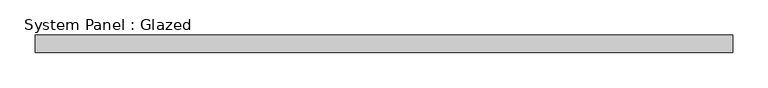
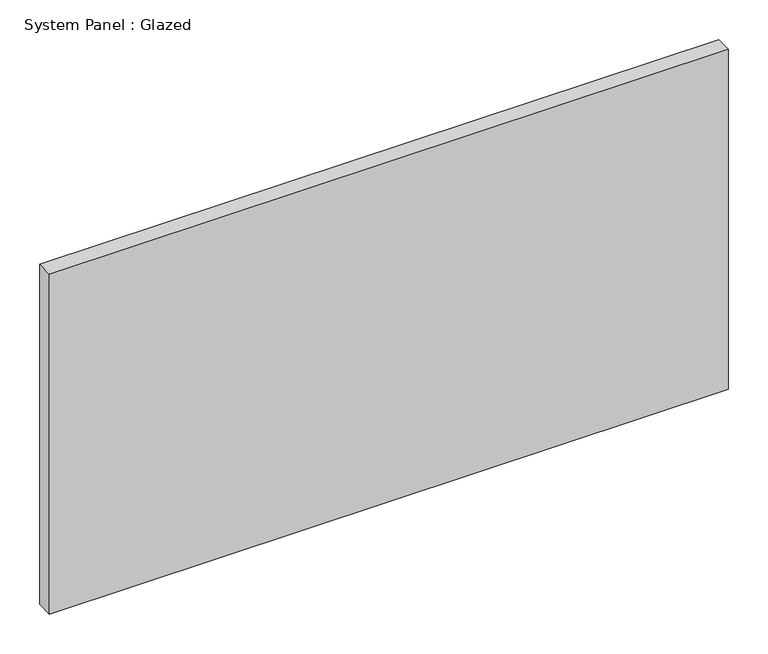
"""IFC4 building model written with IfcOpenShell, lengths in millimetres: plate geometry, System Panel : Glazed."""

from ifc_helpers import new_model, si_unit, origin, origin_with_axes, place, context, project, spatial, polyline, outline, extrude, source, transform, mapped, element, save


def system_panel_glazed_7d7c0d92(model_context):
    return source(origin(), model_context, "Body", "SweptSolid", [
        extrude(outline(polyline([(495.8333334, -49.5), (-495.8333334, -49.5), (-495.8333334, -24.5), (495.8333334, -24.5), (495.8333334, -49.5)])), origin_with_axes(), (0.0, 0.0, 1.0), 525.0),
    ])


if __name__ == "__main__":
    model = new_model("IFC4")
    model_context = context("Model", 3, world=origin())
    ifc_project = project(units=[si_unit("LENGTHUNIT", "METRE", prefix="MILLI")], contexts=[model_context])
    site = spatial("IfcSite", under=ifc_project)
    building = spatial("IfcBuilding", under=site)
    placement = place(None, origin())
    system_panel_glazed_shape = system_panel_glazed_7d7c0d92(model_context)
    element("IfcPlate", 1, ObjectType="System Panel : Glazed", at=placement, inside=building, context=model_context, shape_type="MappedRepresentation", body=[
        mapped(system_panel_glazed_shape, transform((0.0, 0.0, 0.0), x_axis=(1.0, 0.0, 0.0), y_axis=(0.0, 1.0, 0.0), z_axis=(0.0, 0.0, 1.0))),
    ])
    save(model, "model.ifc")
